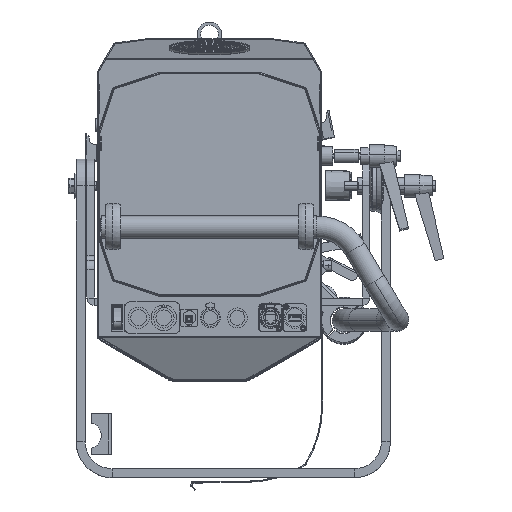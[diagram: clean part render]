
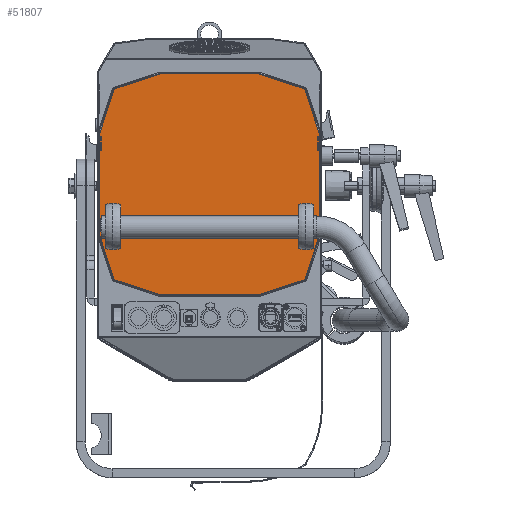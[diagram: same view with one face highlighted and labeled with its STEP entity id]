
A CAD part, top view. The second image highlights one B-rep face of the part: STEP entity #51807.
In plain terms, the highlighted planar face has unit normal (0, 0, 1).
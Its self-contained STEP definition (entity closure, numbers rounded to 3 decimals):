
#777 = CARTESIAN_POINT ( 'NONE',  ( -123., 0., 215.3 ) ) ;
#3399 = FACE_OUTER_BOUND ( 'NONE', #68344, .T. ) ;
#5027 = CARTESIAN_POINT ( 'NONE',  ( -123., -54.683, 215.3 ) ) ;
#6259 = EDGE_CURVE ( 'NONE', #93779, #72298, #82453, .T. ) ;
#6872 = DIRECTION ( 'NONE',  ( -0.951, -0.309, 0. ) ) ;
#6879 = CARTESIAN_POINT ( 'NONE',  ( 123., -54.683, 215.3 ) ) ;
#7029 = DIRECTION ( 'NONE',  ( 0.309, 0.951, 0. ) ) ;
#7821 = LINE ( 'NONE', #63688, #22311 ) ;
#10844 = VECTOR ( 'NONE', #6872, 1000. ) ;
#11522 = VECTOR ( 'NONE', #18795, 1000. ) ;
#11549 = LINE ( 'NONE', #95758, #14443 ) ;
#11612 = EDGE_CURVE ( 'NONE', #74390, #57837, #108744, .T. ) ;
#11760 = VECTOR ( 'NONE', #79505, 1000. ) ;
#12878 = ORIENTED_EDGE ( 'NONE', *, *, #79757, .F. ) ;
#13660 = VERTEX_POINT ( 'NONE', #113662 ) ;
#14443 = VECTOR ( 'NONE', #113911, 1000. ) ;
#17261 = EDGE_CURVE ( 'NONE', #77426, #41170, #78164, .T. ) ;
#18795 = DIRECTION ( 'NONE',  ( 0.309, -0.951, 0. ) ) ;
#19318 = CARTESIAN_POINT ( 'NONE',  ( 123., 0., 215.3 ) ) ;
#21184 = CARTESIAN_POINT ( 'NONE',  ( -106.246, -106.246, 215.3 ) ) ;
#21342 = EDGE_CURVE ( 'NONE', #13660, #41170, #54855, .T. ) ;
#22004 = CARTESIAN_POINT ( 'NONE',  ( 123.033, -54.581, 215.3 ) ) ;
#22311 = VECTOR ( 'NONE', #37406, 1000. ) ;
#26828 = CARTESIAN_POINT ( 'NONE',  ( 54.791, 123., 215.3 ) ) ;
#27232 = DIRECTION ( 'NONE',  ( -1., 0., 0. ) ) ;
#27781 = EDGE_CURVE ( 'NONE', #74390, #50901, #62215, .T. ) ;
#27911 = DIRECTION ( 'NONE',  ( -1., 0., 0. ) ) ;
#30958 = LINE ( 'NONE', #80270, #10844 ) ;
#30992 = CARTESIAN_POINT ( 'NONE',  ( 123., 54.683, 215.3 ) ) ;
#31874 = EDGE_CURVE ( 'NONE', #83318, #38601, #7821, .T. ) ;
#32669 = CARTESIAN_POINT ( 'NONE',  ( 106.246, -106.246, 215.3 ) ) ;
#34854 = VECTOR ( 'NONE', #106158, 1000. ) ;
#34972 = CARTESIAN_POINT ( 'NONE',  ( 54.791, -123., 215.3 ) ) ;
#36389 = DIRECTION ( 'NONE',  ( 0., 0., -1. ) ) ;
#37133 = VERTEX_POINT ( 'NONE', #61779 ) ;
#37192 = EDGE_CURVE ( 'NONE', #57837, #13660, #30958, .T. ) ;
#37406 = DIRECTION ( 'NONE',  ( 0.951, 0.309, 0. ) ) ;
#38601 = VERTEX_POINT ( 'NONE', #101954 ) ;
#41170 = VERTEX_POINT ( 'NONE', #101132 ) ;
#44116 = ORIENTED_EDGE ( 'NONE', *, *, #72646, .T. ) ;
#49073 = VECTOR ( 'NONE', #62046, 1000. ) ;
#50901 = VERTEX_POINT ( 'NONE', #30992 ) ;
#51807 = ADVANCED_FACE ( 'NONE', ( #3399 ), #82369, .F. ) ;
#52123 = CARTESIAN_POINT ( 'NONE',  ( 106.677, 106.106, 215.3 ) ) ;
#54649 = EDGE_CURVE ( 'NONE', #37133, #83318, #70720, .T. ) ;
#54855 = LINE ( 'NONE', #34972, #49073 ) ;
#56719 = ORIENTED_EDGE ( 'NONE', *, *, #31874, .F. ) ;
#57339 = CARTESIAN_POINT ( 'NONE',  ( -106.246, 106.246, 215.3 ) ) ;
#57344 = VECTOR ( 'NONE', #112185, 1000. ) ;
#57837 = VERTEX_POINT ( 'NONE', #32669 ) ;
#59136 = LINE ( 'NONE', #26828, #112527 ) ;
#61779 = CARTESIAN_POINT ( 'NONE',  ( -123., 54.683, 215.3 ) ) ;
#62046 = DIRECTION ( 'NONE',  ( -1., 0., 0. ) ) ;
#62055 = VECTOR ( 'NONE', #7029, 1000. ) ;
#62215 = LINE ( 'NONE', #19318, #68027 ) ;
#63688 = CARTESIAN_POINT ( 'NONE',  ( -106.677, 106.106, 215.3 ) ) ;
#64010 = ORIENTED_EDGE ( 'NONE', *, *, #17261, .T. ) ;
#65037 = CARTESIAN_POINT ( 'NONE',  ( 0., 0., 215.3 ) ) ;
#66978 = ORIENTED_EDGE ( 'NONE', *, *, #21342, .F. ) ;
#68027 = VECTOR ( 'NONE', #111663, 1000. ) ;
#68344 = EDGE_LOOP ( 'NONE', ( #88904, #96945, #76701, #97678, #56719, #94361, #12878, #44116, #64010, #66978, #88211, #84406 ) ) ;
#70720 = LINE ( 'NONE', #71996, #62055 ) ;
#71996 = CARTESIAN_POINT ( 'NONE',  ( -123.033, 54.581, 215.3 ) ) ;
#72298 = VERTEX_POINT ( 'NONE', #85397 ) ;
#72646 = EDGE_CURVE ( 'NONE', #110650, #77426, #90919, .T. ) ;
#74390 = VERTEX_POINT ( 'NONE', #6879 ) ;
#76701 = ORIENTED_EDGE ( 'NONE', *, *, #6259, .T. ) ;
#77426 = VERTEX_POINT ( 'NONE', #21184 ) ;
#78164 = LINE ( 'NONE', #116191, #34854 ) ;
#79505 = DIRECTION ( 'NONE',  ( -0.951, 0.309, 0. ) ) ;
#79757 = EDGE_CURVE ( 'NONE', #110650, #37133, #106447, .T. ) ;
#80270 = CARTESIAN_POINT ( 'NONE',  ( 106.677, -106.106, 215.3 ) ) ;
#82369 = PLANE ( 'NONE',  #109704 ) ;
#82453 = LINE ( 'NONE', #52123, #11760 ) ;
#82681 = VECTOR ( 'NONE', #86525, 1000. ) ;
#83318 = VERTEX_POINT ( 'NONE', #57339 ) ;
#84406 = ORIENTED_EDGE ( 'NONE', *, *, #11612, .F. ) ;
#85397 = CARTESIAN_POINT ( 'NONE',  ( 54.683, 123., 215.3 ) ) ;
#86525 = DIRECTION ( 'NONE',  ( -0.309, -0.951, 0. ) ) ;
#88211 = ORIENTED_EDGE ( 'NONE', *, *, #37192, .F. ) ;
#88904 = ORIENTED_EDGE ( 'NONE', *, *, #27781, .T. ) ;
#90919 = LINE ( 'NONE', #110731, #11522 ) ;
#93779 = VERTEX_POINT ( 'NONE', #107936 ) ;
#94361 = ORIENTED_EDGE ( 'NONE', *, *, #54649, .F. ) ;
#95758 = CARTESIAN_POINT ( 'NONE',  ( 123.033, 54.581, 215.3 ) ) ;
#96945 = ORIENTED_EDGE ( 'NONE', *, *, #118479, .T. ) ;
#97678 = ORIENTED_EDGE ( 'NONE', *, *, #99764, .T. ) ;
#99764 = EDGE_CURVE ( 'NONE', #72298, #38601, #59136, .T. ) ;
#101132 = CARTESIAN_POINT ( 'NONE',  ( -54.683, -123., 215.3 ) ) ;
#101954 = CARTESIAN_POINT ( 'NONE',  ( -54.683, 123., 215.3 ) ) ;
#106158 = DIRECTION ( 'NONE',  ( 0.951, -0.309, 0. ) ) ;
#106447 = LINE ( 'NONE', #777, #57344 ) ;
#107936 = CARTESIAN_POINT ( 'NONE',  ( 106.246, 106.246, 215.3 ) ) ;
#108744 = LINE ( 'NONE', #22004, #82681 ) ;
#109704 = AXIS2_PLACEMENT_3D ( 'NONE', #65037, #36389, #27911 ) ;
#110650 = VERTEX_POINT ( 'NONE', #5027 ) ;
#110731 = CARTESIAN_POINT ( 'NONE',  ( -123.033, -54.581, 215.3 ) ) ;
#111663 = DIRECTION ( 'NONE',  ( 0., 1., 0. ) ) ;
#112185 = DIRECTION ( 'NONE',  ( 0., 1., 0. ) ) ;
#112527 = VECTOR ( 'NONE', #27232, 1000. ) ;
#113662 = CARTESIAN_POINT ( 'NONE',  ( 54.683, -123., 215.3 ) ) ;
#113911 = DIRECTION ( 'NONE',  ( -0.309, 0.951, 0. ) ) ;
#116191 = CARTESIAN_POINT ( 'NONE',  ( -106.677, -106.106, 215.3 ) ) ;
#118479 = EDGE_CURVE ( 'NONE', #50901, #93779, #11549, .T. ) ;
